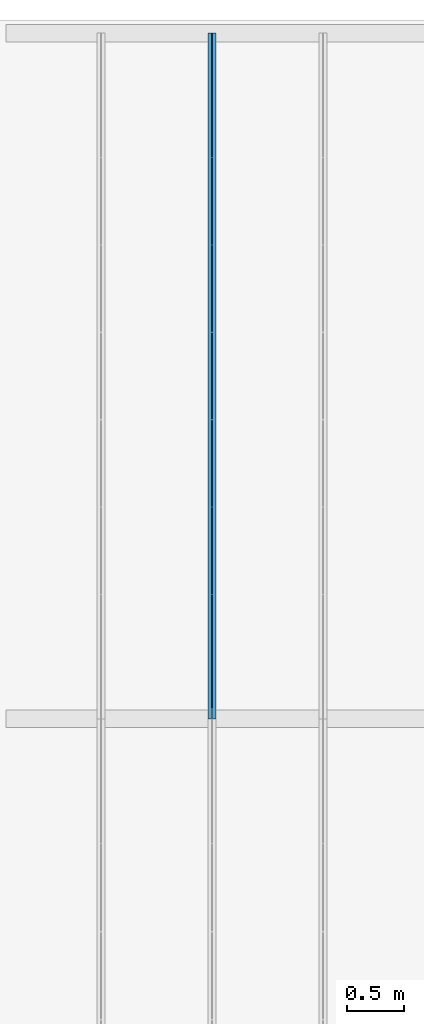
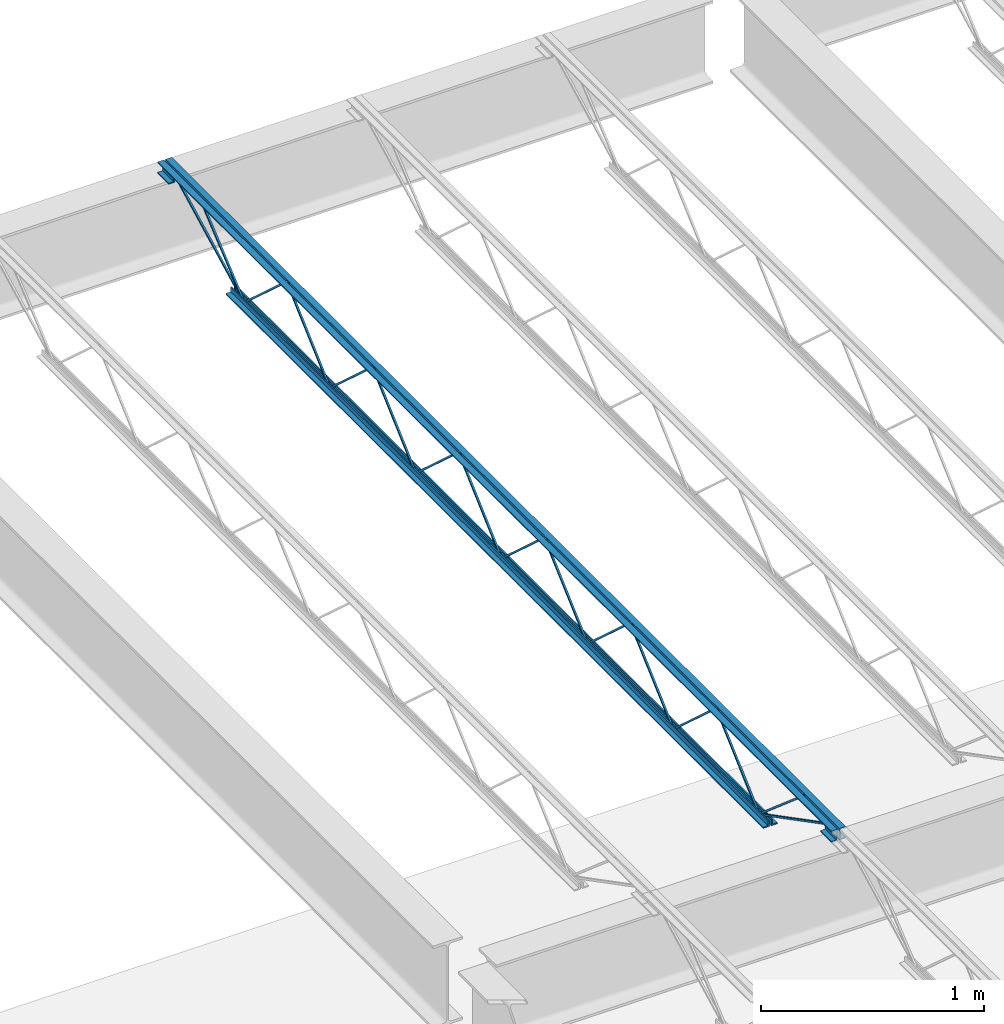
# One storey, part 37 of 75: 1 beam.
"""IFC2X3 building model written with IfcOpenShell, lengths in metres."""

from ifc_helpers import new_model, entity, si_unit, converted_unit, frame, origin, place, context, project, spatial, face_set, surface_model, element, save


model = new_model("IFC2X3")

# Units and contexts
model_context = context("Model", 3, precision=1e-09, world=origin())
plan_context = context("Plan", 3, precision=1e-09, world=origin())
ifc_project = project(units=[si_unit("LENGTHUNIT", "METRE"), si_unit("AREAUNIT", "SQUARE_METRE"), si_unit("VOLUMEUNIT", "CUBIC_METRE"), converted_unit("PLANEANGLEUNIT", "DEGREE", entity("IfcRatioMeasure", 0.01745329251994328), si_unit("PLANEANGLEUNIT", "RADIAN"), dimensions=[0, 0, 0, 0, 0, 0, 0]), si_unit("TIMEUNIT", "SECOND")], contexts=[model_context, plan_context])

# Site, building, storey
site_placement = place(None, origin())
site = spatial("IfcSite", under=ifc_project, at=site_placement, Name="Default", CompositionType="ELEMENT")
building_placement = place(site_placement, origin())
building = spatial("IfcBuilding", under=site, at=building_placement, CompositionType="ELEMENT")
storey_placement = place(building_placement, origin())
storey = spatial("IfcBuildingStorey", under=building, at=storey_placement, Name="First Floor", CompositionType="ELEMENT", Elevation=-3.531500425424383e-13)

# Beam
beam_placement = place(storey_placement, frame((-49.97674999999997, 50.09000000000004, 4.112000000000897), z_axis=(0.0, 0.0, 1.0), x_axis=(-1.0, 0.0, 0.0)))
element("IfcBeam", 1, at=beam_placement, inside=storey, Name="M_K-Series Bar Joist-Rod Web:14K1:14K1", ObjectType="M_K-Series Bar Joist-Rod Web:14K1", context=model_context, shape_type="SurfaceModel", body=[
    surface_model("IfcFaceBasedSurfaceModel", [(-0.03200000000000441, -2.254000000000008, 0.01110000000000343), (-0.0415000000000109, -2.254000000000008, 0.01110000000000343), (-0.0415000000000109, -2.254000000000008, 0.001600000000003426), (-0.03200000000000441, -2.254000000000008, 0.001600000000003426), (-0.04150000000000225, -2.252655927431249, 0.01110000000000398), (-0.03200000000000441, -2.252655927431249, 0.01110000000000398), (-0.04150000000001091, -2.248994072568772, 0.001600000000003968), (-0.04150000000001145, -1.869844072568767, 0.3449000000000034), (-0.04150000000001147, -1.86715592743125, 0.3449000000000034), (-0.04150000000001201, -1.48800592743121, 0.001600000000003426), (-0.04150000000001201, -1.483000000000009, 0.001600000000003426), (-0.04150000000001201, -1.483000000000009, 0.01110000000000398), (-0.04150000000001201, -1.484344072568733, 0.01110000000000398), (-0.04150000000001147, -1.863494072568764, 0.3544000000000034), (-0.04150000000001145, -1.873505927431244, 0.3544000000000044), (-0.03200000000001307, -2.248994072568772, 0.001600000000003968), (-0.03200000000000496, -1.869844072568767, 0.3449000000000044), (-0.03200000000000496, -1.86715592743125, 0.3449000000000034), (-0.0320000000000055, -1.48800592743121, 0.001600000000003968), (-0.03200000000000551, -1.483000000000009, 0.001600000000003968), (-0.03200000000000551, -1.483000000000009, 0.01110000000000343), (-0.0320000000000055, -1.484344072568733, 0.01110000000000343), (-0.03200000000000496, -1.863494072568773, 0.3544000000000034), (-0.03200000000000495, -1.873505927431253, 0.3544000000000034), (-0.0320000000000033, -3.025000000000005, 0.01110000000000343), (-0.04150000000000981, -3.025000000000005, 0.01110000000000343), (-0.04150000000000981, -3.025000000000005, 0.001600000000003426), (-0.0320000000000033, -3.025000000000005, 0.001600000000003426), (-0.04150000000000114, -3.023655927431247, 0.01110000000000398), (-0.0320000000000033, -3.023655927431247, 0.01110000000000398), (-0.04150000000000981, -3.01999407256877, 0.001600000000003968), (-0.04150000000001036, -2.640844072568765, 0.3449000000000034), (-0.04150000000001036, -2.638155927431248, 0.3449000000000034), (-0.0415000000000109, -2.259005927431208, 0.001600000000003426), (-0.0415000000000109, -2.254000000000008, 0.01110000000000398), (-0.0415000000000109, -2.255344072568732, 0.01110000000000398), (-0.04150000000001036, -2.634494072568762, 0.3544000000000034), (-0.04150000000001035, -2.644505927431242, 0.3544000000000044), (-0.03200000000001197, -3.01999407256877, 0.001600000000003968), (-0.03200000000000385, -2.640844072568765, 0.3449000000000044), (-0.03200000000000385, -2.638155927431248, 0.3449000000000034), (-0.03200000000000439, -2.259005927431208, 0.001600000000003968), (-0.03200000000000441, -2.254000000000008, 0.001600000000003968), (-0.0320000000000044, -2.255344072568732, 0.01110000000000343), (-0.03200000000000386, -2.634494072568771, 0.3544000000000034), (-0.03200000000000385, -2.644505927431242, 0.3544000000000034), (-0.03200000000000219, -3.796000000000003, 0.01110000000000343), (-0.0415000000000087, -3.796000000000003, 0.01110000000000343), (-0.0415000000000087, -3.796000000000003, 0.001600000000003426), (-0.03200000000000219, -3.796000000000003, 0.001600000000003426), (-0.04150000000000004, -3.794655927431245, 0.01110000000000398), (-0.03200000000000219, -3.794655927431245, 0.01110000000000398), (-0.0415000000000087, -3.790994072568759, 0.001600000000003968), (-0.04150000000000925, -3.411844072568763, 0.3449000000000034), (-0.04150000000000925, -3.409155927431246, 0.3449000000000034), (-0.04150000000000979, -3.030005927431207, 0.001600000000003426), (-0.04150000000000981, -3.025000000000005, 0.01110000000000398), (-0.04150000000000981, -3.026344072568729, 0.01110000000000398), (-0.04150000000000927, -3.40549407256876, 0.3544000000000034), (-0.04150000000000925, -3.41550592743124, 0.3544000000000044), (-0.03200000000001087, -3.790994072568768, 0.001600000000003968), (-0.03200000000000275, -3.411844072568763, 0.3449000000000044), (-0.03200000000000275, -3.409155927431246, 0.3449000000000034), (-0.03200000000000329, -3.030005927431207, 0.001600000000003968), (-0.0320000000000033, -3.025000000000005, 0.001600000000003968), (-0.0320000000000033, -3.026344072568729, 0.01110000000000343), (-0.03200000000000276, -3.40549407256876, 0.3544000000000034), (-0.03200000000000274, -3.41550592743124, 0.3544000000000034), (-0.03200000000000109, -4.567000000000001, 0.01110000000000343), (-0.04150000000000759, -4.567000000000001, 0.01110000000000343), (-0.04150000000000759, -4.567000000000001, 0.001600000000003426), (-0.03200000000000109, -4.567000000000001, 0.001600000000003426), (-0.04149999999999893, -4.565655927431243, 0.01110000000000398), (-0.03200000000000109, -4.565655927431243, 0.01110000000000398), (-0.04150000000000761, -4.561994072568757, 0.001600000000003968), (-0.04150000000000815, -4.182844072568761, 0.3449000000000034), (-0.04150000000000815, -4.180155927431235, 0.3449000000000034), (-0.0415000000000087, -3.801005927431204, 0.001600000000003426), (-0.0415000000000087, -3.795999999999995, 0.001600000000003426), (-0.0415000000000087, -3.796000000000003, 0.01110000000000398), (-0.0415000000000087, -3.797344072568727, 0.01110000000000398), (-0.04150000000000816, -4.176494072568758, 0.3544000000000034), (-0.04150000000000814, -4.186505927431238, 0.3544000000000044), (-0.03200000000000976, -4.561994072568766, 0.001600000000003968), (-0.03200000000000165, -4.182844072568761, 0.3449000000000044), (-0.03200000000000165, -4.180155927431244, 0.3449000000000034), (-0.03200000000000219, -3.801005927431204, 0.001600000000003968), (-0.03200000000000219, -3.796000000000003, 0.001600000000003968), (-0.03200000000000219, -3.795999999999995, 0.01110000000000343), (-0.03200000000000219, -3.797344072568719, 0.01110000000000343), (-0.03200000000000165, -4.176494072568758, 0.3544000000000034), (-0.03200000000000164, -4.186505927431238, 0.3544000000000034), (-0.03200000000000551, -1.483000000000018, 0.01109999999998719), (-0.04150000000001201, -1.483000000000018, 0.01109999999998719), (-0.04150000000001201, -1.483000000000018, 0.001599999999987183), (-0.03200000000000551, -1.483000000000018, 0.001599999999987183), (-0.04150000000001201, -1.48165592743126, 0.01109999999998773), (-0.03200000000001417, -1.48165592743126, 0.01109999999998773), (-0.04150000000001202, -1.477994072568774, 0.001599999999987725), (-0.04150000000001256, -1.098844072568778, 0.3448999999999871), (-0.04150000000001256, -1.096155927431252, 0.3448999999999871), (-0.04150000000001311, -0.717005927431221, 0.001599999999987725), (-0.04150000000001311, -0.7120000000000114, 0.001599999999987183), (-0.04150000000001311, -0.7120000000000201, 0.01109999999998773), (-0.04150000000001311, -0.713344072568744, 0.01109999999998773), (-0.04150000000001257, -1.092494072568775, 0.3543999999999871), (-0.04150000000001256, -1.102505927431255, 0.3543999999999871), (-0.03200000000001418, -1.477994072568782, 0.001599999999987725), (-0.03200000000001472, -1.098844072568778, 0.3448999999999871), (-0.03200000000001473, -1.09615592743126, 0.3448999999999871), (-0.03200000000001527, -0.717005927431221, 0.001599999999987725), (-0.03200000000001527, -0.7120000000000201, 0.001599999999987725), (-0.03200000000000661, -0.7120000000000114, 0.01109999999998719), (-0.03200000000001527, -0.7133440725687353, 0.01109999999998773), (-0.03200000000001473, -1.092494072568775, 0.3543999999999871), (-0.03200000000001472, -1.102505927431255, 0.3543999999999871), (-0.03199999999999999, -5.33799999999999, 0.01110000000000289), (-0.04150000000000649, -5.33799999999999, 0.01110000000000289), (-0.04150000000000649, -5.33799999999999, 0.001600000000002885), (-0.03199999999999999, -5.33799999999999, 0.001600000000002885), (-0.04149999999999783, -5.336655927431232, 0.01110000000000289), (-0.03199999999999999, -5.336655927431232, 0.01110000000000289), (-0.0415000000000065, -5.332994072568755, 0.001600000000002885), (-0.04150000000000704, -4.95384407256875, 0.3449000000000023), (-0.04150000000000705, -4.951155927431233, 0.3449000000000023), (-0.04150000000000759, -4.572005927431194, 0.001600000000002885), (-0.04150000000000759, -4.566999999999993, 0.001600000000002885), (-0.04150000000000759, -4.566999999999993, 0.01110000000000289), (-0.04150000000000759, -4.568344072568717, 0.01110000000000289), (-0.04150000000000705, -4.947494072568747, 0.3544000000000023), (-0.04150000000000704, -4.957505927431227, 0.3544000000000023), (-0.03200000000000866, -5.332994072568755, 0.001600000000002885), (-0.03200000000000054, -4.95384407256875, 0.3449000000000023), (-0.03200000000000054, -4.951155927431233, 0.3449000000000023), (-0.03200000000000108, -4.572005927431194, 0.001600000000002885), (-0.03200000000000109, -4.566999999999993, 0.001600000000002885), (-0.03200000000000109, -4.566999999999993, 0.01110000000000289), (-0.03200000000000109, -4.568344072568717, 0.01110000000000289), (-0.03200000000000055, -4.947494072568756, 0.3544000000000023), (-0.03200000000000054, -4.957505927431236, 0.3544000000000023), (-0.04150000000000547, 0.0, 0.3559999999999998), (-0.07350000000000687, 0.0, 0.3559999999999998), (-0.07350000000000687, 0.0, 0.349499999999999), (-0.048000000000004, 0.0, 0.349499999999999), (-0.048000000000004, 0.0, 0.3239999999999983), (-0.04150000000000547, 0.0, 0.3239999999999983), (-0.03200000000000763, 0.0, 0.3559999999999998), (-0.03200000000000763, 0.0, 0.3239999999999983), (-0.02550000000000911, 0.0, 0.3239999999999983), (-0.02550000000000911, 0.0, 0.349499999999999), (0.0, 0.0, 0.349499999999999), (0.0, 0.0, 0.3559999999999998), (-0.04150000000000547, -6.049999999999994, 0.3559999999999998), (-0.07350000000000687, -6.049999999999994, 0.3559999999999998), (-0.07350000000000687, -6.049999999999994, 0.349499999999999), (-0.048000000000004, -6.049999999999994, 0.349499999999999), (-0.048000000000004, -6.049999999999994, 0.3239999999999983), (-0.04150000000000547, -6.049999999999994, 0.3239999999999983), (-0.03200000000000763, -6.049999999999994, 0.3559999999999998), (-0.03200000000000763, -6.049999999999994, 0.3239999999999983), (-0.02550000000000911, -6.049999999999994, 0.3239999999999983), (-0.02550000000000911, -6.049999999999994, 0.349499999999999), (0.0, -6.049999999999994, 0.349499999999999), (0.0, -6.049999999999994, 0.3559999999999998), (-0.03199999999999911, -5.950000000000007, 0.2924999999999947), (0.0, -5.950000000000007, 0.2924999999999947), (0.0, -5.950000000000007, 0.2989999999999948), (-0.02550000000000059, -5.950000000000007, 0.2989999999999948), (-0.02550000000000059, -5.950000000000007, 0.3239999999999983), (-0.03199999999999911, -5.950000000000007, 0.3239999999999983), (-0.07349999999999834, -5.950000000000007, 0.2924999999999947), (-0.04149999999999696, -5.950000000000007, 0.2924999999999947), (-0.04149999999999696, -5.950000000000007, 0.3239999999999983), (-0.04799999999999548, -5.950000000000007, 0.3239999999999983), (-0.04799999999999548, -5.950000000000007, 0.2989999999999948), (-0.07349999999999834, -5.950000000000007, 0.2989999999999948), (-0.03199999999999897, -6.049999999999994, 0.2924999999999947), (0.0, -6.049999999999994, 0.2924999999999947), (0.0, -6.049999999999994, 0.2989999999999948), (-0.02550000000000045, -6.049999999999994, 0.2989999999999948), (-0.02550000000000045, -6.049999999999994, 0.3239999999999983), (-0.03199999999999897, -6.049999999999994, 0.3239999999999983), (-0.07349999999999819, -6.049999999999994, 0.2924999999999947), (-0.04149999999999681, -6.049999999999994, 0.2924999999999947), (-0.04149999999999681, -6.049999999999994, 0.3239999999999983), (-0.04799999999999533, -6.049999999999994, 0.3239999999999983), (-0.04799999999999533, -6.049999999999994, 0.2989999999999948), (-0.07349999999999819, -6.049999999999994, 0.2989999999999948), (-0.04149999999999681, 0.0, 0.2924999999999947), (-0.04149999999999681, 0.0, 0.3239999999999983), (-0.04799999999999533, 0.0, 0.3239999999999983), (-0.04799999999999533, 0.0, 0.2989999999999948), (-0.07349999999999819, 0.0, 0.2989999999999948), (-0.07349999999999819, 0.0, 0.2924999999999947), (-0.03199999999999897, 0.0, 0.2924999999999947), (0.0, 0.0, 0.2924999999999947), (0.0, 0.0, 0.2989999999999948), (-0.02550000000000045, 0.0, 0.2989999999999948), (-0.02550000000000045, 0.0, 0.3239999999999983), (-0.03199999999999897, 0.0, 0.3239999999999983), (-0.04150000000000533, -0.0999999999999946, 0.2924999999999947), (-0.04150000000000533, -0.0999999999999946, 0.3239999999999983), (-0.04800000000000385, -0.0999999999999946, 0.3239999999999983), (-0.04800000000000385, -0.0999999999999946, 0.2989999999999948), (-0.07350000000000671, -0.0999999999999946, 0.2989999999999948), (-0.07350000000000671, -0.0999999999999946, 0.2924999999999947), (-0.03200000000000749, -0.0999999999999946, 0.2924999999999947), (0.0, -0.0999999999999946, 0.2924999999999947), (0.0, -0.0999999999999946, 0.2989999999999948), (-0.02550000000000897, -0.0999999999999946, 0.2989999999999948), (-0.02550000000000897, -0.0999999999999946, 0.3239999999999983), (-0.03200000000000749, -0.0999999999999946, 0.3239999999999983), (-0.04150000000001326, -0.6119999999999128, 0.0), (-0.04150000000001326, -0.6119999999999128, 0.03199999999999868), (-0.04800000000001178, -0.6119999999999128, 0.03199999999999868), (-0.04800000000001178, -0.6119999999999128, 0.006499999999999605), (-0.07350000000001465, -0.6119999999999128, 0.006499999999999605), (-0.07350000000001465, -0.6119999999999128, 0.0), (-0.03200000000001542, -0.6119999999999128, 0.0), (0.0, -0.6119999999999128, 0.0), (0.0, -0.6119999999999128, 0.006499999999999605), (-0.0255000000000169, -0.6119999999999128, 0.006499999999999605), (-0.0255000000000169, -0.6119999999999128, 0.03199999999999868), (-0.03200000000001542, -0.6119999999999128, 0.03199999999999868), (-0.04150000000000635, -5.437999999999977, 0.0), (-0.04150000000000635, -5.437999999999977, 0.03199999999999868), (-0.04800000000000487, -5.437999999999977, 0.03199999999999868), (-0.04800000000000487, -5.437999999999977, 0.006499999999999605), (-0.07350000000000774, -5.437999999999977, 0.006499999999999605), (-0.07350000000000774, -5.437999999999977, 0.0), (-0.03200000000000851, -5.437999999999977, 0.0), (0.0, -5.437999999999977, 0.0), (0.0, -5.437999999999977, 0.006499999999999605), (-0.02550000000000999, -5.437999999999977, 0.006499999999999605), (-0.02550000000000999, -5.437999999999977, 0.03199999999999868), (-0.03200000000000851, -5.437999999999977, 0.03199999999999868), (-0.03199999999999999, -5.335811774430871, 0.01056594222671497), (-0.0415000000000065, -5.335811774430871, 0.01056594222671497), (-0.04150000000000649, -5.34018822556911, 0.002134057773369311), (-0.03199999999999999, -5.34018822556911, 0.002134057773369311), (-0.03199999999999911, -5.948840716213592, 0.3287499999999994), (-0.03199999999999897, -6.049999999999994, 0.3287499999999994), (-0.03199999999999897, -6.049999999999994, 0.3192499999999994), (-0.03199999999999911, -5.951159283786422, 0.3192499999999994), (-0.04149999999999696, -5.951159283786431, 0.3192499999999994), (-0.04150000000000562, -5.948840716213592, 0.3287499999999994), (-0.04150000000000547, -6.049999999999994, 0.3287499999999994), (-0.04150000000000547, -6.049999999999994, 0.3192499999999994), (-0.03199999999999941, -5.743457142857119, 0.341700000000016), (-0.04150000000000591, -5.743457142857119, 0.341700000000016), (-0.04150000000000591, -5.743457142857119, 0.332200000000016), (-0.03199999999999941, -5.743457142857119, 0.332200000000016), (-0.04149999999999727, -5.729024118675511, 0.341700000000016), (-0.03199999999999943, -5.729024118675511, 0.341700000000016), (-0.04150000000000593, -5.732490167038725, 0.332200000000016), (-0.04150000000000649, -5.341058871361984, 0.002716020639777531), (-0.0415000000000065, -5.334941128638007, 0.009983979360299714), (-0.03200000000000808, -5.732490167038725, 0.332200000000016), (-0.03199999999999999, -5.341058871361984, 0.002716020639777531), (-0.03199999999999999, -5.334941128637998, 0.009983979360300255), (-0.0320000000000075, -0.09781177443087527, 0.3197840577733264), (-0.03200000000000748, -0.1021882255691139, 0.3282159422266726), (-0.04150000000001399, -0.1021882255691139, 0.3282159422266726), (-0.04150000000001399, -0.09781177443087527, 0.3197840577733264), (-0.03200000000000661, -0.7098117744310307, 0.002134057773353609), (-0.03200000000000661, -0.7141882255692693, 0.01056594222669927), (-0.04150000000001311, -0.7141882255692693, 0.01056594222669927), (-0.04150000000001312, -0.7098117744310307, 0.002134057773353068), (-0.03200000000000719, -0.3088922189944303, 0.3460454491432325), (-0.03200000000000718, -0.3150792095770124, 0.3532545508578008), (-0.04150000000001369, -0.3150792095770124, 0.3532545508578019), (-0.04150000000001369, -0.3088922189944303, 0.3460454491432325), (-0.03200000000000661, -0.7089065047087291, 0.002745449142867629), (-0.03200000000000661, -0.715093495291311, 0.009954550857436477), (-0.04150000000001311, -0.715093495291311, 0.009954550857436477), (-0.04150000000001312, -0.7089065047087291, 0.002745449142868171)], [face_set([[[0, 1, 2, 3]], [[1, 4, 5, 0]], [[2, 6, 7, 8, 9, 10, 11, 12, 13, 14, 4, 1]], [[3, 2, 6, 15]], [[0, 3, 15, 16, 17, 18, 19, 20, 21, 22, 23, 5]], [[4, 5, 23, 14]], [[15, 16, 7, 6]], [[14, 13, 22, 23]], [[16, 7, 8, 17]], [[13, 12, 21, 22]], [[17, 8, 9, 18]], [[20, 11, 10, 19]], [[12, 11, 20, 21]], [[18, 9, 10, 19]]]), face_set([[[24, 25, 26, 27]], [[25, 28, 29, 24]], [[26, 30, 31, 32, 33, 2, 34, 35, 36, 37, 28, 25]], [[27, 26, 30, 38]], [[24, 27, 38, 39, 40, 41, 42, 0, 43, 44, 45, 29]], [[28, 29, 45, 37]], [[38, 39, 31, 30]], [[37, 36, 44, 45]], [[39, 31, 32, 40]], [[36, 35, 43, 44]], [[40, 32, 33, 41]], [[0, 34, 2, 42]], [[35, 34, 0, 43]], [[41, 33, 2, 42]]]), face_set([[[46, 47, 48, 49]], [[47, 50, 51, 46]], [[48, 52, 53, 54, 55, 26, 56, 57, 58, 59, 50, 47]], [[49, 48, 52, 60]], [[46, 49, 60, 61, 62, 63, 64, 24, 65, 66, 67, 51]], [[50, 51, 67, 59]], [[60, 61, 53, 52]], [[59, 58, 66, 67]], [[61, 53, 54, 62]], [[58, 57, 65, 66]], [[62, 54, 55, 63]], [[24, 56, 26, 64]], [[57, 56, 24, 65]], [[63, 55, 26, 64]]]), face_set([[[68, 69, 70, 71]], [[69, 72, 73, 68]], [[70, 74, 75, 76, 77, 78, 79, 80, 81, 82, 72, 69]], [[71, 70, 74, 83]], [[68, 71, 83, 84, 85, 86, 87, 88, 89, 90, 91, 73]], [[72, 73, 91, 82]], [[83, 84, 75, 74]], [[82, 81, 90, 91]], [[84, 75, 76, 85]], [[81, 80, 89, 90]], [[85, 76, 77, 86]], [[88, 79, 78, 87]], [[80, 79, 88, 89]], [[86, 77, 78, 87]]]), face_set([[[92, 93, 94, 95]], [[93, 96, 97, 92]], [[94, 98, 99, 100, 101, 102, 103, 104, 105, 106, 96, 93]], [[95, 94, 98, 107]], [[92, 95, 107, 108, 109, 110, 111, 112, 113, 114, 115, 97]], [[96, 97, 115, 106]], [[107, 108, 99, 98]], [[106, 105, 114, 115]], [[108, 99, 100, 109]], [[105, 104, 113, 114]], [[109, 100, 101, 110]], [[112, 103, 102, 111]], [[104, 103, 112, 113]], [[110, 101, 102, 111]]]), face_set([[[116, 117, 118, 119]], [[117, 120, 121, 116]], [[118, 122, 123, 124, 125, 126, 127, 128, 129, 130, 120, 117]], [[119, 118, 122, 131]], [[116, 119, 131, 132, 133, 134, 135, 136, 137, 138, 139, 121]], [[120, 121, 139, 130]], [[131, 132, 123, 122]], [[130, 129, 138, 139]], [[132, 123, 124, 133]], [[129, 128, 137, 138]], [[133, 124, 125, 134]], [[136, 127, 126, 135]], [[128, 127, 136, 137]], [[134, 125, 126, 135]]]), face_set([[[140, 141, 142, 143, 144, 145]], [[146, 147, 148, 149, 150, 151]], [[152, 153, 154, 155, 156, 157]], [[158, 159, 160, 161, 162, 163]], [[145, 140, 152, 157]], [[144, 145, 157, 156]], [[143, 155, 156, 144]], [[142, 143, 155, 154]], [[141, 153, 154, 142]], [[140, 152, 153, 141]], [[151, 163, 158, 146]], [[150, 151, 163, 162]], [[149, 150, 162, 161]], [[148, 149, 161, 160]], [[147, 148, 160, 159]], [[146, 158, 159, 147]]]), face_set([[[164, 165, 166, 167, 168, 169]], [[170, 171, 172, 173, 174, 175]], [[176, 177, 178, 179, 180, 181]], [[182, 183, 184, 185, 186, 187]], [[169, 181, 176, 164]], [[168, 180, 181, 169]], [[167, 168, 180, 179]], [[166, 178, 179, 167]], [[165, 166, 178, 177]], [[164, 165, 177, 176]], [[175, 187, 182, 170]], [[174, 186, 187, 175]], [[173, 185, 186, 174]], [[172, 184, 185, 173]], [[171, 172, 184, 183]], [[170, 171, 183, 182]]]), face_set([[[188, 189, 190, 191, 192, 193]], [[194, 195, 196, 197, 198, 199]], [[200, 201, 202, 203, 204, 205]], [[206, 207, 208, 209, 210, 211]], [[193, 188, 200, 205]], [[192, 204, 205, 193]], [[191, 203, 204, 192]], [[190, 202, 203, 191]], [[189, 201, 202, 190]], [[188, 189, 201, 200]], [[199, 211, 206, 194]], [[198, 210, 211, 199]], [[197, 198, 210, 209]], [[196, 208, 209, 197]], [[195, 196, 208, 207]], [[194, 195, 207, 206]]]), face_set([[[212, 213, 214, 215, 216, 217]], [[218, 219, 220, 221, 222, 223]], [[224, 225, 226, 227, 228, 229]], [[230, 231, 232, 233, 234, 235]], [[217, 212, 224, 229]], [[216, 228, 229, 217]], [[215, 227, 228, 216]], [[214, 226, 227, 215]], [[213, 225, 226, 214]], [[212, 213, 225, 224]], [[223, 235, 230, 218]], [[222, 234, 235, 223]], [[221, 222, 234, 233]], [[220, 232, 233, 221]], [[219, 220, 232, 231]], [[218, 219, 231, 230]]]), face_set([[[236, 237, 238, 239]], [[239, 236, 240, 241, 242, 243]], [[238, 239, 243, 244]], [[237, 245, 246, 247, 244, 238]], [[236, 240, 245, 237]], [[241, 246, 247, 242]], [[244, 243, 242, 247]], [[240, 241, 246, 245]]]), face_set([[[248, 249, 250, 251]], [[249, 252, 253, 248]], [[250, 254, 255, 256, 252, 249]], [[251, 250, 254, 257]], [[248, 251, 257, 258, 259, 253]], [[259, 256, 255, 258]], [[252, 256, 259, 253]], [[257, 254, 255, 258]]]), face_set([[[260, 261, 262, 263]], [[264, 265, 266, 267]], [[263, 267, 264, 260]], [[262, 266, 267, 263]], [[261, 262, 266, 265]], [[260, 261, 265, 264]]]), face_set([[[268, 269, 270, 271]], [[272, 273, 274, 275]], [[271, 275, 272, 268]], [[270, 274, 275, 271]], [[269, 270, 274, 273]], [[268, 269, 273, 272]]])]),
])

save(model, "model.ifc")
